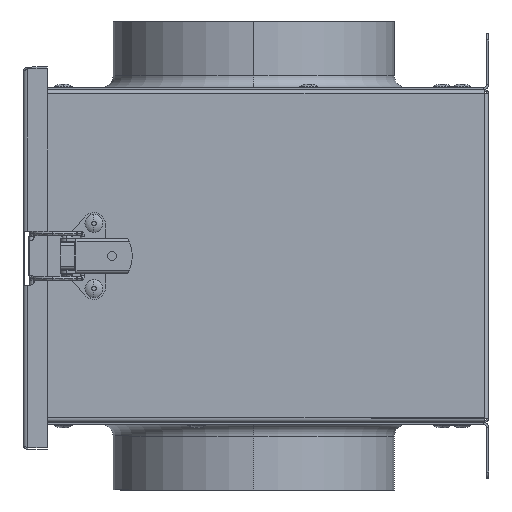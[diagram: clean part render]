
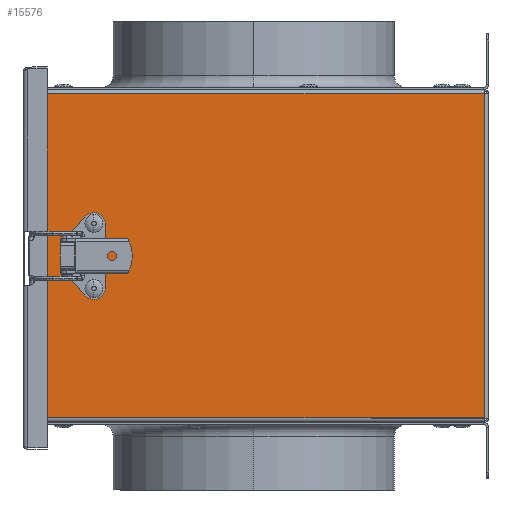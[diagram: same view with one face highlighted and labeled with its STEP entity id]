
A CAD part, left-side view. The second image highlights one B-rep face of the part: STEP entity #15576.
In plain terms, the highlighted planar face has unit normal (-1, 0, 0).
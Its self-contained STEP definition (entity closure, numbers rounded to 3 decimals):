
#351 = CARTESIAN_POINT ( 'NONE',  ( -100., 202.2, -58.1 ) ) ;
#455 = CARTESIAN_POINT ( 'NONE',  ( -100., 177.6, 14.5 ) ) ;
#540 = ORIENTED_EDGE ( 'NONE', *, *, #17398, .F. ) ;
#888 = DIRECTION ( 'NONE',  ( 0., 0., 1. ) ) ;
#954 = VECTOR ( 'NONE', #9391, 1000. ) ;
#1057 = LINE ( 'NONE', #3359, #8828 ) ;
#1674 = CARTESIAN_POINT ( 'NONE',  ( -100., 0.8, -58.1 ) ) ;
#2243 = AXIS2_PLACEMENT_3D ( 'NONE', #2451, #13329, #4015 ) ;
#2451 = CARTESIAN_POINT ( 'NONE',  ( -100., 175.5, -14.5 ) ) ;
#2479 = CARTESIAN_POINT ( 'NONE',  ( -100., 0.8, 74. ) ) ;
#2749 = CARTESIAN_POINT ( 'NONE',  ( -100., 204.2, 72. ) ) ;
#2767 = ORIENTED_EDGE ( 'NONE', *, *, #16788, .F. ) ;
#3014 = ORIENTED_EDGE ( 'NONE', *, *, #5399, .T. ) ;
#3167 = EDGE_LOOP ( 'NONE', ( #540, #14371, #13263, #5225, #6796, #9658, #17878, #11209, #14996, #2767, #3014, #13680 ) ) ;
#3302 = VERTEX_POINT ( 'NONE', #16550 ) ;
#3359 = CARTESIAN_POINT ( 'NONE',  ( -100., 202.2, 58.1 ) ) ;
#3531 = CARTESIAN_POINT ( 'NONE',  ( -100., 202.192, 58.1 ) ) ;
#3600 = EDGE_CURVE ( 'NONE', #13693, #18337, #14084, .T. ) ;
#3646 = AXIS2_PLACEMENT_3D ( 'NONE', #7307, #18236, #8885 ) ;
#3668 = DIRECTION ( 'NONE',  ( 0., 1., 0. ) ) ;
#3686 = DIRECTION ( 'NONE',  ( 0., 1., 0. ) ) ;
#3748 = DIRECTION ( 'NONE',  ( 0., -1., 0. ) ) ;
#3940 = AXIS2_PLACEMENT_3D ( 'NONE', #6178, #17106, #7723 ) ;
#4015 = DIRECTION ( 'NONE',  ( 0., 1., 0. ) ) ;
#4078 = LINE ( 'NONE', #5850, #11874 ) ;
#4134 = VECTOR ( 'NONE', #3686, 1000. ) ;
#4292 = CARTESIAN_POINT ( 'NONE',  ( -100., 175.5, 14.5 ) ) ;
#4337 = VECTOR ( 'NONE', #888, 1000. ) ;
#4377 = EDGE_CURVE ( 'NONE', #8354, #5278, #4078, .T. ) ;
#4454 = EDGE_CURVE ( 'NONE', #6731, #4632, #14540, .T. ) ;
#4575 = DIRECTION ( 'NONE',  ( 0., 0., -1. ) ) ;
#4617 = LINE ( 'NONE', #14557, #4134 ) ;
#4632 = VERTEX_POINT ( 'NONE', #12035 ) ;
#4817 = LINE ( 'NONE', #7035, #4337 ) ;
#4974 = LINE ( 'NONE', #17704, #12294 ) ;
#4985 = EDGE_CURVE ( 'NONE', #17325, #7553, #10873, .T. ) ;
#5044 = FACE_BOUND ( 'NONE', #16734, .T. ) ;
#5124 = CARTESIAN_POINT ( 'NONE',  ( -100., 0.8, -58.108 ) ) ;
#5168 = DIRECTION ( 'NONE',  ( 0., 0., 1. ) ) ;
#5199 = DIRECTION ( 'NONE',  ( 0., -1., 0. ) ) ;
#5225 = ORIENTED_EDGE ( 'NONE', *, *, #12557, .T. ) ;
#5278 = VERTEX_POINT ( 'NONE', #13290 ) ;
#5378 = CARTESIAN_POINT ( 'NONE',  ( -100., 202.192, 58.108 ) ) ;
#5399 = EDGE_CURVE ( 'NONE', #16095, #9748, #4617, .T. ) ;
#5603 = CIRCLE ( 'NONE', #2243, 2.1 ) ;
#5604 = DIRECTION ( 'NONE',  ( 1., 0., 0. ) ) ;
#5849 = DIRECTION ( 'NONE',  ( 0., 1., 0. ) ) ;
#5850 = CARTESIAN_POINT ( 'NONE',  ( -100., 204.2, 74. ) ) ;
#6178 = CARTESIAN_POINT ( 'NONE',  ( -100., 175.5, -14.5 ) ) ;
#6275 = AXIS2_PLACEMENT_3D ( 'NONE', #4292, #15169, #5849 ) ;
#6723 = CIRCLE ( 'NONE', #3646, 2.1 ) ;
#6731 = VERTEX_POINT ( 'NONE', #8709 ) ;
#6796 = ORIENTED_EDGE ( 'NONE', *, *, #3600, .F. ) ;
#7035 = CARTESIAN_POINT ( 'NONE',  ( -100., 202.192, 74. ) ) ;
#7307 = CARTESIAN_POINT ( 'NONE',  ( -100., 175.5, 14.5 ) ) ;
#7341 = ORIENTED_EDGE ( 'NONE', *, *, #10202, .T. ) ;
#7553 = VERTEX_POINT ( 'NONE', #5378 ) ;
#7723 = DIRECTION ( 'NONE',  ( 0., 1., 0. ) ) ;
#7784 = VERTEX_POINT ( 'NONE', #10674 ) ;
#7975 = VECTOR ( 'NONE', #3748, 1000. ) ;
#8001 = VERTEX_POINT ( 'NONE', #10057 ) ;
#8077 = CARTESIAN_POINT ( 'NONE',  ( -100., 202.2, 58.1 ) ) ;
#8145 = DIRECTION ( 'NONE',  ( 0., 0., -1. ) ) ;
#8184 = EDGE_CURVE ( 'NONE', #7784, #17924, #6723, .T. ) ;
#8354 = VERTEX_POINT ( 'NONE', #10795 ) ;
#8668 = PLANE ( 'NONE',  #9672 ) ;
#8709 = CARTESIAN_POINT ( 'NONE',  ( -100., 177.6, -14.5 ) ) ;
#8828 = VECTOR ( 'NONE', #14242, 1000. ) ;
#8885 = DIRECTION ( 'NONE',  ( 0., 1., 0. ) ) ;
#9141 = CARTESIAN_POINT ( 'NONE',  ( -100., 2., -74. ) ) ;
#9214 = LINE ( 'NONE', #18729, #954 ) ;
#9391 = DIRECTION ( 'NONE',  ( 0., -1., 0. ) ) ;
#9501 = ORIENTED_EDGE ( 'NONE', *, *, #4454, .T. ) ;
#9641 = LINE ( 'NONE', #9141, #13279 ) ;
#9658 = ORIENTED_EDGE ( 'NONE', *, *, #11433, .F. ) ;
#9672 = AXIS2_PLACEMENT_3D ( 'NONE', #2479, #5604, #16528 ) ;
#9692 = FACE_BOUND ( 'NONE', #14692, .T. ) ;
#9748 = VERTEX_POINT ( 'NONE', #2749 ) ;
#9913 = VECTOR ( 'NONE', #5168, 1000. ) ;
#10057 = CARTESIAN_POINT ( 'NONE',  ( -100., 2., -72. ) ) ;
#10202 = EDGE_CURVE ( 'NONE', #4632, #6731, #5603, .T. ) ;
#10674 = CARTESIAN_POINT ( 'NONE',  ( -100., 173.4, 14.5 ) ) ;
#10795 = CARTESIAN_POINT ( 'NONE',  ( -100., 204.2, -58.108 ) ) ;
#10873 = LINE ( 'NONE', #14483, #9913 ) ;
#11142 = EDGE_CURVE ( 'NONE', #5278, #8001, #9214, .T. ) ;
#11209 = ORIENTED_EDGE ( 'NONE', *, *, #4377, .T. ) ;
#11433 = EDGE_CURVE ( 'NONE', #3302, #13693, #4817, .T. ) ;
#11658 = LINE ( 'NONE', #14621, #7975 ) ;
#11744 = LINE ( 'NONE', #5124, #19552 ) ;
#11874 = VECTOR ( 'NONE', #12120, 1000. ) ;
#12035 = CARTESIAN_POINT ( 'NONE',  ( -100., 173.4, -14.5 ) ) ;
#12120 = DIRECTION ( 'NONE',  ( 0., 0., -1. ) ) ;
#12294 = VECTOR ( 'NONE', #3668, 1000. ) ;
#12557 = EDGE_CURVE ( 'NONE', #19274, #18337, #1057, .T. ) ;
#12775 = ORIENTED_EDGE ( 'NONE', *, *, #8184, .T. ) ;
#12787 = CARTESIAN_POINT ( 'NONE',  ( -100., 204.2, 74. ) ) ;
#13263 = ORIENTED_EDGE ( 'NONE', *, *, #14917, .F. ) ;
#13279 = VECTOR ( 'NONE', #4575, 1000. ) ;
#13290 = CARTESIAN_POINT ( 'NONE',  ( -100., 204.2, -72. ) ) ;
#13329 = DIRECTION ( 'NONE',  ( 1., 0., 0. ) ) ;
#13332 = FACE_OUTER_BOUND ( 'NONE', #3167, .T. ) ;
#13453 = ORIENTED_EDGE ( 'NONE', *, *, #17023, .T. ) ;
#13680 = ORIENTED_EDGE ( 'NONE', *, *, #17974, .T. ) ;
#13693 = VERTEX_POINT ( 'NONE', #15803 ) ;
#13955 = VECTOR ( 'NONE', #8145, 1000. ) ;
#14084 = LINE ( 'NONE', #1674, #17773 ) ;
#14242 = DIRECTION ( 'NONE',  ( 0., 0., -1. ) ) ;
#14371 = ORIENTED_EDGE ( 'NONE', *, *, #4985, .F. ) ;
#14483 = CARTESIAN_POINT ( 'NONE',  ( -100., 202.192, 74. ) ) ;
#14540 = CIRCLE ( 'NONE', #3940, 2.1 ) ;
#14557 = CARTESIAN_POINT ( 'NONE',  ( -100., 2., 72. ) ) ;
#14621 = CARTESIAN_POINT ( 'NONE',  ( -100., 0.8, 58.1 ) ) ;
#14692 = EDGE_LOOP ( 'NONE', ( #9501, #7341 ) ) ;
#14917 = EDGE_CURVE ( 'NONE', #19274, #17325, #11658, .T. ) ;
#14996 = ORIENTED_EDGE ( 'NONE', *, *, #11142, .T. ) ;
#15169 = DIRECTION ( 'NONE',  ( 1., 0., 0. ) ) ;
#15576 = ADVANCED_FACE ( 'NONE', ( #9692, #5044, #13332 ), #8668, .F. ) ;
#15803 = CARTESIAN_POINT ( 'NONE',  ( -100., 202.192, -58.1 ) ) ;
#16095 = VERTEX_POINT ( 'NONE', #16411 ) ;
#16411 = CARTESIAN_POINT ( 'NONE',  ( -100., 2., 72. ) ) ;
#16528 = DIRECTION ( 'NONE',  ( 0., 1., 0. ) ) ;
#16550 = CARTESIAN_POINT ( 'NONE',  ( -100., 202.192, -58.108 ) ) ;
#16734 = EDGE_LOOP ( 'NONE', ( #13453, #12775 ) ) ;
#16788 = EDGE_CURVE ( 'NONE', #16095, #8001, #9641, .T. ) ;
#17023 = EDGE_CURVE ( 'NONE', #17924, #7784, #18172, .T. ) ;
#17106 = DIRECTION ( 'NONE',  ( 1., 0., 0. ) ) ;
#17117 = CARTESIAN_POINT ( 'NONE',  ( -100., 204.2, 58.108 ) ) ;
#17325 = VERTEX_POINT ( 'NONE', #3531 ) ;
#17398 = EDGE_CURVE ( 'NONE', #7553, #19155, #4974, .T. ) ;
#17704 = CARTESIAN_POINT ( 'NONE',  ( -100., 0.8, 58.108 ) ) ;
#17773 = VECTOR ( 'NONE', #18776, 1000. ) ;
#17878 = ORIENTED_EDGE ( 'NONE', *, *, #18867, .F. ) ;
#17924 = VERTEX_POINT ( 'NONE', #455 ) ;
#17974 = EDGE_CURVE ( 'NONE', #9748, #19155, #18143, .T. ) ;
#18143 = LINE ( 'NONE', #12787, #13955 ) ;
#18172 = CIRCLE ( 'NONE', #6275, 2.1 ) ;
#18236 = DIRECTION ( 'NONE',  ( 1., 0., 0. ) ) ;
#18337 = VERTEX_POINT ( 'NONE', #351 ) ;
#18729 = CARTESIAN_POINT ( 'NONE',  ( -100., 204.2, -72. ) ) ;
#18776 = DIRECTION ( 'NONE',  ( 0., 1., 0. ) ) ;
#18867 = EDGE_CURVE ( 'NONE', #8354, #3302, #11744, .T. ) ;
#19155 = VERTEX_POINT ( 'NONE', #17117 ) ;
#19274 = VERTEX_POINT ( 'NONE', #8077 ) ;
#19552 = VECTOR ( 'NONE', #5199, 1000. ) ;
